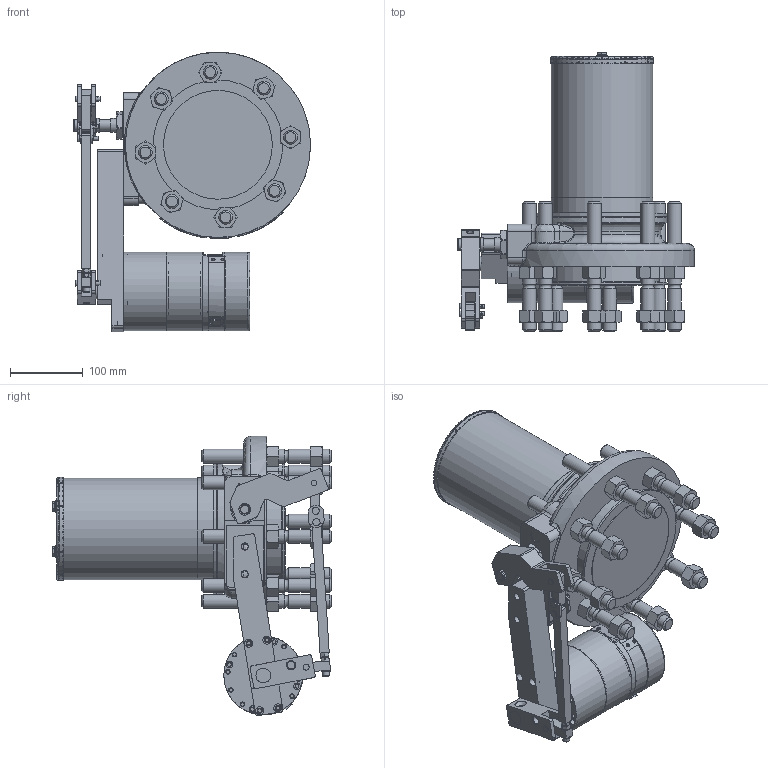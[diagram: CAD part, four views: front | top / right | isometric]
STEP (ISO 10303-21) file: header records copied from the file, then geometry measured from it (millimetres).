
FILE_DESCRIPTION (( 'STEP AP203' ), '1' );
FILE_NAME ('#R Series Assembly W. Rego A3219.STEP', '2020-11-30T16:25:51', ( 'Technician #5' ), ( '' ), 'SwSTEP 2.0', 'SolidWorks 2020', '' );
FILE_SCHEMA (( 'CONFIG_CONTROL_DESIGN' ));
Length unit declared in the file: millimetre
Products named in the file (35): Nut1-4; 3022-2 Bearing; R-Series 8016B middle carrier; 90002-1 Spiral Spring; A3219FA-1030 Mounting Pin FL; A3219FA-1000 Mounting Bar; R-Series 8030 Cover Tube; 90510-1 Lid Insert Spring U; 90003-1 Spiral Spring; Globe 312212; A3219FA-1040 Mounting Pin; R-Series 8006 top cover; Sanya6005; 2-211 O-Ring; A3219FA-1130 Fusible Link Holder; ABSR1; #R Series Assembly W. Rego A3219; Spring Pin 532x1.125; 90504-1 Spring catch; NPT Plug; A3219FA-1120 Fusible Link Holder; 3016-8 Enclosure Cover; SanyaHK08x14x12; Sanya6004; # Planetary Spring U; A3219FA-1110 Fusible Link Holder; R-Series 8018 input pinion; 90502 Input shaft guide extension Spring U; 90514 Bottom Lid Spring U; A3219FA-1020 Valve Lever; Screw 1-4x1.75 SN370-048; 3010-22 Enclosure Base; 90500 Output Shaft Spring U; 90001-1 Spiral Spring; A3219FA-1010 Actuator Lever
Assembly tree (41 placements, depth 3):
  #R Series Assembly W. Rego A3219
    ABSR1
    # Planetary Spring U
      3016-8 Enclosure Cover
      R-Series 8018 input pinion
      3010-22 Enclosure Base
      3022-2 Bearing
      R-Series 8030 Cover Tube
      R-Series 8006 top cover
      Spring Pin 532x1.125  x4
      SanyaHK08x14x12
      90502 Input shaft guide extension Spring U
      90500 Output Shaft Spring U
      R-Series 8016B middle carrier
      90510-1 Lid Insert Spring U
      Sanya6005
      90504-1 Spring catch
      Sanya6004
      90514 Bottom Lid Spring U
      90001-1 Spiral Spring
      90002-1 Spiral Spring
      90003-1 Spiral Spring
      2-211 O-Ring
      NPT Plug
    A3219FA-1020 Valve Lever
    A3219FA-1010 Actuator Lever
    A3219FA-1030 Mounting Pin FL  x2
    Globe 312212  x2
    A3219FA-1130 Fusible Link Holder
    A3219FA-1120 Fusible Link Holder
    A3219FA-1110 Fusible Link Holder
    Screw 1-4x1.75 SN370-048
    Nut1-4  x2
    A3219FA-1000 Mounting Bar
    A3219FA-1040 Mounting Pin  x2
Bounding box: 325.16 x 382.68 x 383.35 mm (x, y, z)
Volume: 1338354.6 mm3; surface area: 1035395.3 mm2
Topology: 48 solids, 53 shells, 2076 faces, 5513 edges, 3589 vertices
Faces by surface type: plane 809, cylinder 711, cone 301, bspline 185, torus 70
Full cylindrical faces by diameter (mm): 1.6 x74, 2.403 x3, 2.6 x4, 2.705 x2, 3.155 x1, 3.175 x1, 3.556 x4, 3.569 x18, 3.969 x4, 4 x6, 4.039 x6, 4.369 x4, 4.775 x1, 4.826 x1, 5.1 x12, 5.105 x2, 5.197 x12, 5.3 x4, 5.558 x1, 6 x4, 6.198 x4, 6.3 x2, 6.33 x1, 6.35 x8, 6.604 x2, 7 x5, 7.036 x1, 7.137 x1, 7.2 x4, 7.93 x2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
Entity records: 97786 total; most frequent: CARTESIAN_POINT 48525, ORIENTED_EDGE 9341, DIRECTION 8630, EDGE_CURVE 4677, AXIS2_PLACEMENT_3D 3588, VERTEX_POINT 3305, EDGE_LOOP 2834, FACE_OUTER_BOUND 2371
